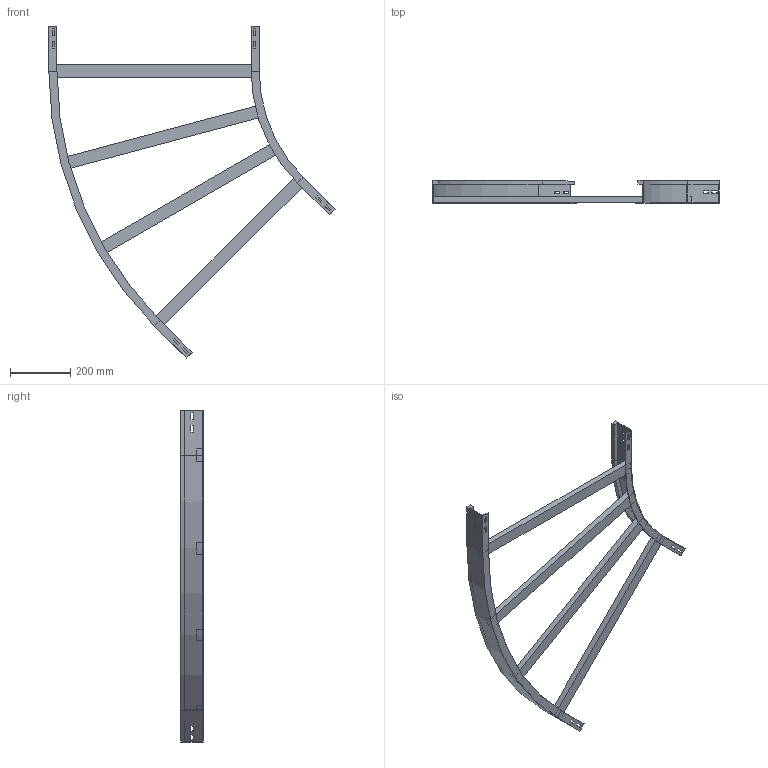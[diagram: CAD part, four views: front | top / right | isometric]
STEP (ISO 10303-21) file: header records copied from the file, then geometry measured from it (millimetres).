
FILE_DESCRIPTION (( 'STEP AP214' ), '1' );
FILE_NAME ('11B5C700.step', '2025-02-21T15:15:39', ( '' ), ( '' ), 'SwSTEP 2.0', 'SolidWorks 2023', '' );
FILE_SCHEMA (( 'AUTOMOTIVE_DESIGN' ));
Length unit declared in the file: millimetre
Products named in the file (4): TRAVERSINO_700; A2_LONGH.INTERNO 45°_H75_R500; 11B5C700; A2_LONGH.ESTERNO 45°_H75_R500+700
Assembly tree (6 placements, depth 2):
  11B5C700
    A2_LONGH.INTERNO 45°_H75_R500
    A2_LONGH.ESTERNO 45°_H75_R500+700
    TRAVERSINO_700  x4
Bounding box: 952.51 x 75 x 1104.59 mm (x, y, z)
Volume: 3008701.3 mm3; surface area: 798541.7 mm2
Topology: 6 solids, 6 shells, 140 faces, 352 edges, 224 vertices
Faces by surface type: plane 132, cylinder 8
Entity records: 3829 total; most frequent: CARTESIAN_POINT 647, ORIENTED_EDGE 632, DIRECTION 594, EDGE_CURVE 316, VECTOR 300, LINE 300, VERTEX_POINT 200, EDGE_LOOP 154
